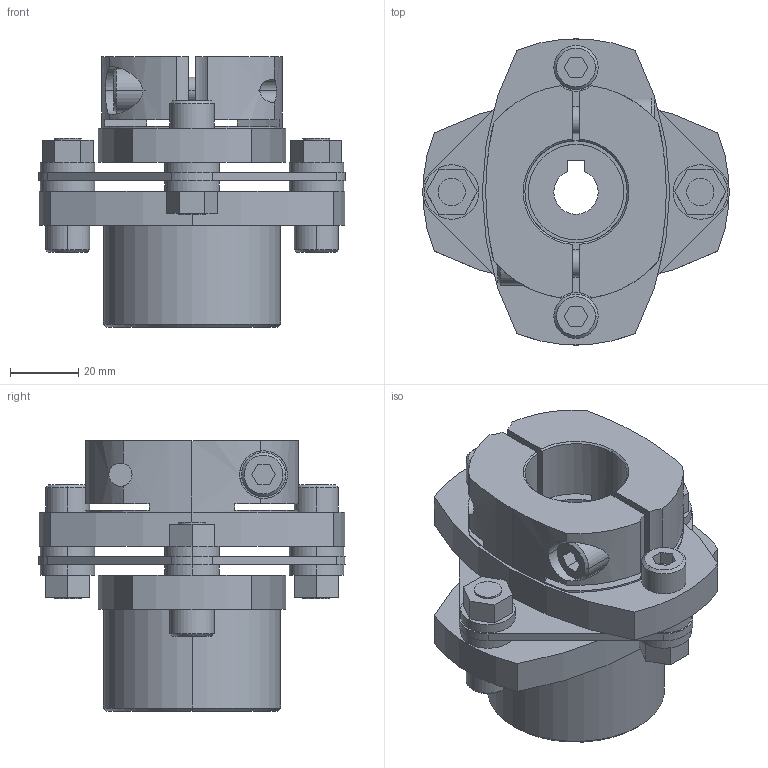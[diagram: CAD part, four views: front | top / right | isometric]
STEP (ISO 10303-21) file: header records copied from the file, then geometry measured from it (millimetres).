
FILE_DESCRIPTION((''),'2;1');
FILE_NAME('LCS-90M-16L亊30B.stp','2015-10-28T04:12:41',(''),(''),'AutoCAD STEP 2000i','AutoCAD 2000i',', , ');
FILE_SCHEMA(('CONFIG_CONTROL_DESIGN'));
Length unit declared in the file: millimetre
Products named in the file (7): LCS-90M-16L×28B; 忣兜1; LC90-B028; LC90M-L016; LC90-B019-1; LC90-B019; LCS90-ITA
Assembly tree (6 placements, depth 2):
  LCS-90M-16L×28B
    忣兜1
    LC90-B028
    LC90M-L016
    LC90-B019-1
    LC90-B019
    LCS90-ITA
Bounding box: 90 x 89.94 x 79.5 mm (x, y, z)
Volume: 189005.2 mm3; surface area: 50035.3 mm2
Topology: 1 solids, 1 shells, 234 faces, 588 edges, 386 vertices
Faces by surface type: plane 115, cylinder 96, cone 23
Entity records: 7519 total; most frequent: CARTESIAN_POINT 1523, DIRECTION 1274, ORIENTED_EDGE 1176, EDGE_CURVE 588, AXIS2_PLACEMENT_3D 467, VERTEX_POINT 386, VECTOR 340, LINE 340
